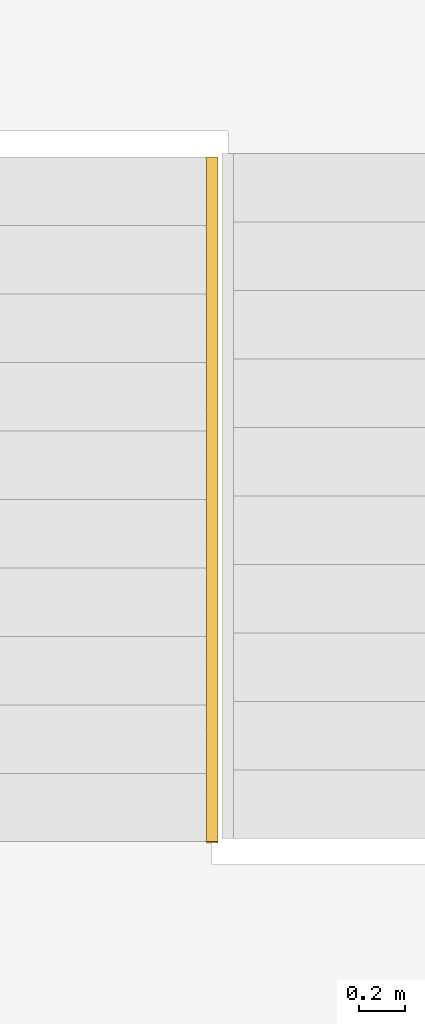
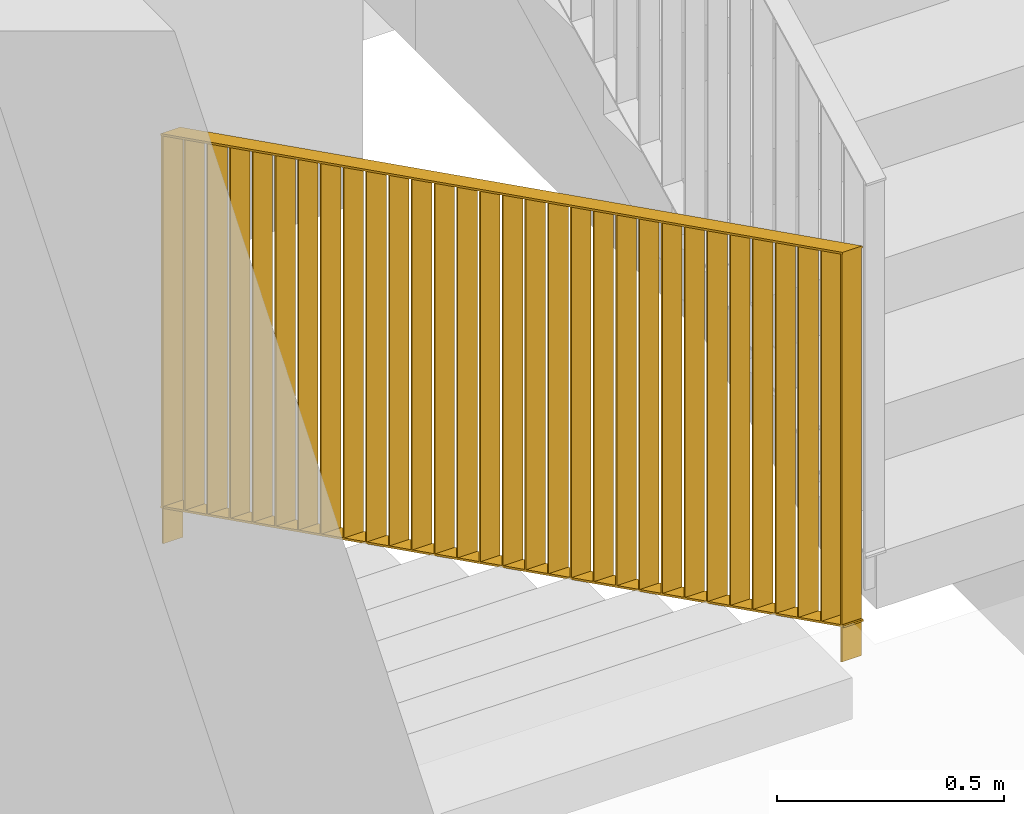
# One storey, part 20 of 48: 1 railing, 1 element without a shape of its own.
"""IFC2X3 building model written with IfcOpenShell, lengths in millimetres."""

from ifc_helpers import new_model, entity, si_unit, converted_unit, derived_unit, direction, frame, origin, place, context, subcontext, project, spatial, faceted_brep, material, element, aggregate, save


model = new_model("IFC2X3")

# Units and contexts
model_context = context("Model", 3, precision=0.01, world=origin(), true_north=direction((6.12303176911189e-17, 1.0)))
body_context = subcontext(model_context, "Body", "Model", "MODEL_VIEW")
ifc_project = project(units=[si_unit("LENGTHUNIT", "METRE", prefix="MILLI"), si_unit("AREAUNIT", "SQUARE_METRE"), si_unit("VOLUMEUNIT", "CUBIC_METRE"), converted_unit("PLANEANGLEUNIT", "DEGREE", entity("IfcRatioMeasure", 0.0174532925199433), si_unit("PLANEANGLEUNIT", "RADIAN"), dimensions=[0, 0, 0, 0, 0, 0, 0]), si_unit("MASSUNIT", "GRAM", prefix="KILO"), derived_unit("MASSDENSITYUNIT", [(si_unit("MASSUNIT", "GRAM", prefix="KILO"), 1), (si_unit("LENGTHUNIT", "METRE"), -3)]), si_unit("TIMEUNIT", "SECOND"), si_unit("FREQUENCYUNIT", "HERTZ"), si_unit("THERMODYNAMICTEMPERATUREUNIT", "DEGREE_CELSIUS"), derived_unit("THERMALTRANSMITTANCEUNIT", [(si_unit("MASSUNIT", "GRAM", prefix="KILO"), 1), (si_unit("THERMODYNAMICTEMPERATUREUNIT", "KELVIN"), -1), (si_unit("TIMEUNIT", "SECOND"), -3)]), derived_unit("VOLUMETRICFLOWRATEUNIT", [(si_unit("LENGTHUNIT", "METRE"), 3), (si_unit("TIMEUNIT", "SECOND"), -1)]), si_unit("ELECTRICCURRENTUNIT", "AMPERE"), si_unit("ELECTRICVOLTAGEUNIT", "VOLT"), si_unit("POWERUNIT", "WATT"), si_unit("FORCEUNIT", "NEWTON", prefix="KILO"), si_unit("ILLUMINANCEUNIT", "LUX"), si_unit("LUMINOUSFLUXUNIT", "LUMEN"), si_unit("LUMINOUSINTENSITYUNIT", "CANDELA"), derived_unit("USERDEFINED", [(si_unit("MASSUNIT", "GRAM", prefix="KILO"), -1), (si_unit("LENGTHUNIT", "METRE"), -2), (si_unit("TIMEUNIT", "SECOND"), 3), (si_unit("LUMINOUSFLUXUNIT", "LUMEN"), 1)]), derived_unit("LINEARVELOCITYUNIT", [(si_unit("LENGTHUNIT", "METRE"), 1), (si_unit("TIMEUNIT", "SECOND"), -1)]), si_unit("PRESSUREUNIT", "PASCAL"), derived_unit("USERDEFINED", [(si_unit("LENGTHUNIT", "METRE"), -2), (si_unit("MASSUNIT", "GRAM", prefix="KILO"), 1), (si_unit("TIMEUNIT", "SECOND"), -2)]), derived_unit("LINEARFORCEUNIT", [(si_unit("MASSUNIT", "GRAM", prefix="KILO"), 1), (si_unit("LENGTHUNIT", "METRE"), 1), (si_unit("TIMEUNIT", "SECOND"), -2), (si_unit("LENGTHUNIT", "METRE"), -1)]), derived_unit("PLANARFORCEUNIT", [(si_unit("MASSUNIT", "GRAM", prefix="KILO"), 1), (si_unit("LENGTHUNIT", "METRE"), 1), (si_unit("TIMEUNIT", "SECOND"), -2), (si_unit("LENGTHUNIT", "METRE"), -2)])], contexts=[model_context])

# Site, building, storey
site_placement = place(None, origin())
site = spatial("IfcSite", under=ifc_project, at=site_placement, Name="Default", CompositionType="ELEMENT")
building_placement = place(site_placement, origin())
building = spatial("IfcBuilding", under=site, at=building_placement, Name="SMA ARH", CompositionType="ELEMENT")
storey_placement = place(building_placement, frame((0.0, 0.0, 6600.0)))
storey = spatial("IfcBuildingStorey", under=building, at=storey_placement, Name="3 Korrus", CompositionType="ELEMENT", Elevation=6599.99999999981)

# Stair, railing
stair_placement = place(storey_placement, origin())
stair = element("IfcStair", 1, at=stair_placement, inside=storey, Name="Cast-In-Place Stair:Stair", ObjectType="Cast-In-Place Stair:Cast-In-Place Stair", ShapeType="STRAIGHT_RUN_STAIR")
ifc_material = material(Name="Metal - Stainless Steel,Polished")
railing_placement = place(stair_placement, frame((32185.0, 1650.0, 3.74999999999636)))
railing = element("IfcRailing", 2, at=railing_placement, material=ifc_material, Name="Railing:1000mm_sisearh railing offsetiga", ObjectType="Railing:1000mm_sisearh railing offsetiga", PredefinedType="NOTDEFINED", context=body_context, shape_type="Brep", body=[
    faceted_brep([(0.0, 3002.50000000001, 97.5000000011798), (0.0, 2997.50000000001, 100.0), (0.0, 2997.50000000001, 1094.40983005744), (0.0, 3002.50000000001, 1091.90983005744), (50.0, 3002.50000000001, 97.5000000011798), (50.0, 3002.50000000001, 1091.90983005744), (50.0, 2997.50000000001, 1094.40983005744), (50.0, 2997.50000000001, 100.0)], [[[0, 1, 2, 3]], [[4, 5, 6, 7]], [[1, 0, 4, 7]], [[2, 1, 7, 6]], [[3, 2, 6, 5]], [[0, 3, 5, 4]]]),
    faceted_brep([(0.0, 2902.50000000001, 147.500000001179), (0.0, 2897.50000000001, 150.0), (0.0, 2897.50000000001, 1144.40983005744), (0.0, 2902.50000000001, 1141.90983005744), (50.0, 2902.50000000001, 147.500000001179), (50.0, 2902.50000000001, 1141.90983005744), (50.0, 2897.50000000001, 1144.40983005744), (50.0, 2897.50000000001, 150.0)], [[[0, 1, 2, 3]], [[4, 5, 6, 7]], [[1, 0, 4, 7]], [[2, 1, 7, 6]], [[3, 2, 6, 5]], [[0, 3, 5, 4]]]),
    faceted_brep([(0.0, 2802.50000000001, 197.50000000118), (0.0, 2797.50000000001, 200.0), (0.0, 2797.50000000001, 1194.40983005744), (0.0, 2802.50000000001, 1191.90983005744), (50.0, 2802.50000000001, 197.50000000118), (50.0, 2802.50000000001, 1191.90983005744), (50.0, 2797.50000000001, 1194.40983005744), (50.0, 2797.50000000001, 200.0)], [[[0, 1, 2, 3]], [[4, 5, 6, 7]], [[1, 0, 4, 7]], [[2, 1, 7, 6]], [[3, 2, 6, 5]], [[0, 3, 5, 4]]]),
    faceted_brep([(0.0, 2702.50000000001, 247.500000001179), (0.0, 2697.50000000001, 250.0), (0.0, 2697.50000000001, 1244.40983005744), (0.0, 2702.50000000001, 1241.90983005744), (50.0, 2702.50000000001, 247.500000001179), (50.0, 2702.50000000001, 1241.90983005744), (50.0, 2697.50000000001, 1244.40983005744), (50.0, 2697.50000000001, 250.0)], [[[0, 1, 2, 3]], [[4, 5, 6, 7]], [[1, 0, 4, 7]], [[2, 1, 7, 6]], [[3, 2, 6, 5]], [[0, 3, 5, 4]]]),
    faceted_brep([(0.0, 2602.50000000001, 297.50000000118), (0.0, 2597.50000000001, 300.0), (0.0, 2597.50000000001, 1294.40983005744), (0.0, 2602.50000000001, 1291.90983005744), (50.0, 2602.50000000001, 297.50000000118), (50.0, 2602.50000000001, 1291.90983005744), (50.0, 2597.50000000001, 1294.40983005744), (50.0, 2597.50000000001, 300.0)], [[[0, 1, 2, 3]], [[4, 5, 6, 7]], [[1, 0, 4, 7]], [[2, 1, 7, 6]], [[3, 2, 6, 5]], [[0, 3, 5, 4]]]),
    faceted_brep([(0.0, 2502.50000000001, 347.500000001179), (0.0, 2497.50000000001, 350.0), (0.0, 2497.50000000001, 1344.40983005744), (0.0, 2502.50000000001, 1341.90983005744), (50.0, 2502.50000000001, 347.500000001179), (50.0, 2502.50000000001, 1341.90983005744), (50.0, 2497.50000000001, 1344.40983005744), (50.0, 2497.50000000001, 350.0)], [[[0, 1, 2, 3]], [[4, 5, 6, 7]], [[1, 0, 4, 7]], [[2, 1, 7, 6]], [[3, 2, 6, 5]], [[0, 3, 5, 4]]]),
    faceted_brep([(0.0, 2402.50000000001, 397.50000000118), (0.0, 2397.50000000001, 400.0), (0.0, 2397.50000000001, 1394.40983005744), (0.0, 2402.50000000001, 1391.90983005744), (50.0, 2402.50000000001, 397.50000000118), (50.0, 2402.50000000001, 1391.90983005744), (50.0, 2397.50000000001, 1394.40983005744), (50.0, 2397.50000000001, 400.0)], [[[0, 1, 2, 3]], [[4, 5, 6, 7]], [[1, 0, 4, 7]], [[2, 1, 7, 6]], [[3, 2, 6, 5]], [[0, 3, 5, 4]]]),
    faceted_brep([(0.0, 2302.50000000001, 447.500000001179), (0.0, 2297.50000000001, 450.0), (0.0, 2297.50000000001, 1444.40983005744), (0.0, 2302.50000000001, 1441.90983005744), (50.0, 2302.50000000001, 447.500000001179), (50.0, 2302.50000000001, 1441.90983005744), (50.0, 2297.50000000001, 1444.40983005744), (50.0, 2297.50000000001, 450.0)], [[[0, 1, 2, 3]], [[4, 5, 6, 7]], [[1, 0, 4, 7]], [[2, 1, 7, 6]], [[3, 2, 6, 5]], [[0, 3, 5, 4]]]),
    faceted_brep([(0.0, 2202.50000000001, 497.50000000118), (0.0, 2197.50000000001, 500.0), (0.0, 2197.50000000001, 1494.40983005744), (0.0, 2202.50000000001, 1491.90983005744), (50.0, 2202.50000000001, 497.50000000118), (50.0, 2202.50000000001, 1491.90983005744), (50.0, 2197.50000000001, 1494.40983005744), (50.0, 2197.50000000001, 500.0)], [[[0, 1, 2, 3]], [[4, 5, 6, 7]], [[1, 0, 4, 7]], [[2, 1, 7, 6]], [[3, 2, 6, 5]], [[0, 3, 5, 4]]]),
    faceted_brep([(0.0, 2102.50000000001, 547.500000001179), (0.0, 2097.50000000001, 550.0), (0.0, 2097.50000000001, 1544.40983005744), (0.0, 2102.50000000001, 1541.90983005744), (50.0, 2102.50000000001, 547.500000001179), (50.0, 2102.50000000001, 1541.90983005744), (50.0, 2097.50000000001, 1544.40983005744), (50.0, 2097.50000000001, 550.0)], [[[0, 1, 2, 3]], [[4, 5, 6, 7]], [[1, 0, 4, 7]], [[2, 1, 7, 6]], [[3, 2, 6, 5]], [[0, 3, 5, 4]]]),
    faceted_brep([(0.0, 2002.50000000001, 597.50000000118), (0.0, 1997.50000000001, 600.0), (0.0, 1997.50000000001, 1594.40983005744), (0.0, 2002.50000000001, 1591.90983005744), (50.0, 2002.50000000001, 597.50000000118), (50.0, 2002.50000000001, 1591.90983005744), (50.0, 1997.50000000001, 1594.40983005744), (50.0, 1997.50000000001, 600.0)], [[[0, 1, 2, 3]], [[4, 5, 6, 7]], [[1, 0, 4, 7]], [[2, 1, 7, 6]], [[3, 2, 6, 5]], [[0, 3, 5, 4]]]),
    faceted_brep([(0.0, 1902.50000000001, 647.500000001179), (0.0, 1897.50000000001, 650.0), (0.0, 1897.50000000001, 1644.40983005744), (0.0, 1902.50000000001, 1641.90983005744), (50.0, 1902.50000000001, 647.500000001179), (50.0, 1902.50000000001, 1641.90983005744), (50.0, 1897.50000000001, 1644.40983005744), (50.0, 1897.50000000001, 650.0)], [[[0, 1, 2, 3]], [[4, 5, 6, 7]], [[1, 0, 4, 7]], [[2, 1, 7, 6]], [[3, 2, 6, 5]], [[0, 3, 5, 4]]]),
    faceted_brep([(0.0, 1802.50000000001, 697.50000000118), (0.0, 1797.50000000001, 700.0), (0.0, 1797.50000000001, 1694.40983005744), (0.0, 1802.50000000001, 1691.90983005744), (50.0, 1802.50000000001, 697.50000000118), (50.0, 1802.50000000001, 1691.90983005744), (50.0, 1797.50000000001, 1694.40983005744), (50.0, 1797.50000000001, 700.0)], [[[0, 1, 2, 3]], [[4, 5, 6, 7]], [[1, 0, 4, 7]], [[2, 1, 7, 6]], [[3, 2, 6, 5]], [[0, 3, 5, 4]]]),
    faceted_brep([(0.0, 1702.50000000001, 747.500000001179), (0.0, 1697.50000000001, 750.0), (0.0, 1697.50000000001, 1744.40983005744), (0.0, 1702.50000000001, 1741.90983005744), (50.0, 1702.50000000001, 747.500000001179), (50.0, 1702.50000000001, 1741.90983005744), (50.0, 1697.50000000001, 1744.40983005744), (50.0, 1697.50000000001, 750.0)], [[[0, 1, 2, 3]], [[4, 5, 6, 7]], [[1, 0, 4, 7]], [[2, 1, 7, 6]], [[3, 2, 6, 5]], [[0, 3, 5, 4]]]),
    faceted_brep([(0.0, 1602.50000000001, 797.50000000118), (0.0, 1597.50000000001, 800.0), (0.0, 1597.50000000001, 1794.40983005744), (0.0, 1602.50000000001, 1791.90983005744), (50.0, 1602.50000000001, 797.50000000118), (50.0, 1602.50000000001, 1791.90983005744), (50.0, 1597.50000000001, 1794.40983005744), (50.0, 1597.50000000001, 800.0)], [[[0, 1, 2, 3]], [[4, 5, 6, 7]], [[1, 0, 4, 7]], [[2, 1, 7, 6]], [[3, 2, 6, 5]], [[0, 3, 5, 4]]]),
    faceted_brep([(0.0, 1502.50000000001, 847.500000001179), (0.0, 1497.50000000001, 850.0), (0.0, 1497.50000000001, 1844.40983005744), (0.0, 1502.50000000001, 1841.90983005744), (50.0, 1502.50000000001, 847.500000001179), (50.0, 1502.50000000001, 1841.90983005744), (50.0, 1497.50000000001, 1844.40983005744), (50.0, 1497.50000000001, 850.0)], [[[0, 1, 2, 3]], [[4, 5, 6, 7]], [[1, 0, 4, 7]], [[2, 1, 7, 6]], [[3, 2, 6, 5]], [[0, 3, 5, 4]]]),
    faceted_brep([(0.0, 1402.50000000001, 897.500000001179), (0.0, 1397.50000000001, 900.0), (0.0, 1397.50000000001, 1894.40983005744), (0.0, 1402.50000000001, 1891.90983005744), (50.0, 1402.50000000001, 897.500000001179), (50.0, 1402.50000000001, 1891.90983005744), (50.0, 1397.50000000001, 1894.40983005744), (50.0, 1397.50000000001, 900.0)], [[[0, 1, 2, 3]], [[4, 5, 6, 7]], [[1, 0, 4, 7]], [[2, 1, 7, 6]], [[3, 2, 6, 5]], [[0, 3, 5, 4]]]),
    faceted_brep([(0.0, 1302.50000000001, 947.500000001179), (0.0, 1297.50000000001, 950.0), (0.0, 1297.50000000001, 1944.40983005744), (0.0, 1302.50000000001, 1941.90983005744), (50.0, 1302.50000000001, 947.500000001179), (50.0, 1302.50000000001, 1941.90983005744), (50.0, 1297.50000000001, 1944.40983005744), (50.0, 1297.50000000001, 950.0)], [[[0, 1, 2, 3]], [[4, 5, 6, 7]], [[1, 0, 4, 7]], [[2, 1, 7, 6]], [[3, 2, 6, 5]], [[0, 3, 5, 4]]]),
    faceted_brep([(0.0, 1202.50000000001, 997.500000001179), (0.0, 1197.50000000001, 1000.0), (0.0, 1197.50000000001, 1994.40983005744), (0.0, 1202.50000000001, 1991.90983005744), (50.0, 1202.50000000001, 997.500000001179), (50.0, 1202.50000000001, 1991.90983005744), (50.0, 1197.50000000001, 1994.40983005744), (50.0, 1197.50000000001, 1000.0)], [[[0, 1, 2, 3]], [[4, 5, 6, 7]], [[1, 0, 4, 7]], [[2, 1, 7, 6]], [[3, 2, 6, 5]], [[0, 3, 5, 4]]]),
    faceted_brep([(0.0, 1102.50000000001, 1047.50000000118), (0.0, 1097.50000000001, 1050.0), (0.0, 1097.50000000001, 2044.40983005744), (0.0, 1102.50000000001, 2041.90983005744), (50.0, 1102.50000000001, 1047.50000000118), (50.0, 1102.50000000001, 2041.90983005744), (50.0, 1097.50000000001, 2044.40983005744), (50.0, 1097.50000000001, 1050.0)], [[[0, 1, 2, 3]], [[4, 5, 6, 7]], [[1, 0, 4, 7]], [[2, 1, 7, 6]], [[3, 2, 6, 5]], [[0, 3, 5, 4]]]),
    faceted_brep([(0.0, 1002.50000000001, 1097.50000000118), (0.0, 997.500000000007, 1100.0), (0.0, 997.500000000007, 2094.40983005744), (0.0, 1002.50000000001, 2091.90983005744), (50.0, 1002.50000000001, 1097.50000000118), (50.0, 1002.50000000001, 2091.90983005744), (50.0, 997.500000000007, 2094.40983005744), (50.0, 997.500000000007, 1100.0)], [[[0, 1, 2, 3]], [[4, 5, 6, 7]], [[1, 0, 4, 7]], [[2, 1, 7, 6]], [[3, 2, 6, 5]], [[0, 3, 5, 4]]]),
    faceted_brep([(0.0, 902.500000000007, 1147.50000000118), (0.0, 897.500000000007, 1150.0), (0.0, 897.500000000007, 2144.40983005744), (0.0, 902.500000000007, 2141.90983005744), (50.0, 902.500000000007, 1147.50000000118), (50.0, 902.500000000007, 2141.90983005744), (50.0, 897.500000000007, 2144.40983005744), (50.0, 897.500000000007, 1150.0)], [[[0, 1, 2, 3]], [[4, 5, 6, 7]], [[1, 0, 4, 7]], [[2, 1, 7, 6]], [[3, 2, 6, 5]], [[0, 3, 5, 4]]]),
    faceted_brep([(0.0, 802.500000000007, 1197.50000000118), (0.0, 797.500000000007, 1200.0), (0.0, 797.500000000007, 2194.40983005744), (0.0, 802.500000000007, 2191.90983005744), (50.0, 802.500000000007, 1197.50000000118), (50.0, 802.500000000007, 2191.90983005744), (50.0, 797.500000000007, 2194.40983005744), (50.0, 797.500000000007, 1200.0)], [[[0, 1, 2, 3]], [[4, 5, 6, 7]], [[1, 0, 4, 7]], [[2, 1, 7, 6]], [[3, 2, 6, 5]], [[0, 3, 5, 4]]]),
    faceted_brep([(0.0, 702.500000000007, 1247.50000000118), (0.0, 697.500000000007, 1250.0), (0.0, 697.500000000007, 2244.40983005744), (0.0, 702.500000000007, 2241.90983005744), (50.0, 702.500000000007, 1247.50000000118), (50.0, 702.500000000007, 2241.90983005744), (50.0, 697.500000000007, 2244.40983005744), (50.0, 697.500000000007, 1250.0)], [[[0, 1, 2, 3]], [[4, 5, 6, 7]], [[1, 0, 4, 7]], [[2, 1, 7, 6]], [[3, 2, 6, 5]], [[0, 3, 5, 4]]]),
    faceted_brep([(0.0, 602.500000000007, 1297.50000000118), (0.0, 597.500000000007, 1300.0), (0.0, 597.500000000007, 2294.40983005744), (0.0, 602.500000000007, 2291.90983005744), (50.0, 602.500000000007, 1297.50000000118), (50.0, 602.500000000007, 2291.90983005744), (50.0, 597.500000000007, 2294.40983005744), (50.0, 597.500000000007, 1300.0)], [[[0, 1, 2, 3]], [[4, 5, 6, 7]], [[1, 0, 4, 7]], [[2, 1, 7, 6]], [[3, 2, 6, 5]], [[0, 3, 5, 4]]]),
    faceted_brep([(0.0, 502.500000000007, 1347.50000000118), (0.0, 497.500000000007, 1350.0), (0.0, 497.500000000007, 2344.40983005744), (0.0, 502.500000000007, 2341.90983005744), (50.0, 502.500000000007, 1347.50000000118), (50.0, 502.500000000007, 2341.90983005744), (50.0, 497.500000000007, 2344.40983005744), (50.0, 497.500000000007, 1350.0)], [[[0, 1, 2, 3]], [[4, 5, 6, 7]], [[1, 0, 4, 7]], [[2, 1, 7, 6]], [[3, 2, 6, 5]], [[0, 3, 5, 4]]]),
    faceted_brep([(0.0, 402.500000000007, 1397.50000000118), (0.0, 397.500000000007, 1400.0), (0.0, 397.500000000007, 2394.40983005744), (0.0, 402.500000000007, 2391.90983005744), (50.0, 402.500000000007, 1397.50000000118), (50.0, 402.500000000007, 2391.90983005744), (50.0, 397.500000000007, 2394.40983005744), (50.0, 397.500000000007, 1400.0)], [[[0, 1, 2, 3]], [[4, 5, 6, 7]], [[1, 0, 4, 7]], [[2, 1, 7, 6]], [[3, 2, 6, 5]], [[0, 3, 5, 4]]]),
    faceted_brep([(0.0, 302.500000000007, 1447.50000000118), (0.0, 297.500000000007, 1450.0), (0.0, 297.500000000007, 2444.40983005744), (0.0, 302.500000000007, 2441.90983005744), (50.0, 302.500000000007, 1447.50000000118), (50.0, 302.500000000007, 2441.90983005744), (50.0, 297.500000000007, 2444.40983005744), (50.0, 297.500000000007, 1450.0)], [[[0, 1, 2, 3]], [[4, 5, 6, 7]], [[1, 0, 4, 7]], [[2, 1, 7, 6]], [[3, 2, 6, 5]], [[0, 3, 5, 4]]]),
    faceted_brep([(0.0, 202.500000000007, 1497.50000000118), (0.0, 197.500000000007, 1500.0), (0.0, 197.500000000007, 2494.40983005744), (0.0, 202.500000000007, 2491.90983005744), (50.0, 202.500000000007, 1497.50000000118), (50.0, 202.500000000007, 2491.90983005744), (50.0, 197.500000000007, 2494.40983005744), (50.0, 197.500000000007, 1500.0)], [[[0, 1, 2, 3]], [[4, 5, 6, 7]], [[1, 0, 4, 7]], [[2, 1, 7, 6]], [[3, 2, 6, 5]], [[0, 3, 5, 4]]]),
    faceted_brep([(0.0, 102.500000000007, 1547.50000000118), (0.0, 97.5000000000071, 1550.0), (0.0, 97.5000000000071, 2544.40983005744), (0.0, 102.500000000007, 2541.90983005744), (50.0, 102.500000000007, 1547.50000000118), (50.0, 102.500000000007, 2541.90983005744), (50.0, 97.5000000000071, 2544.40983005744), (50.0, 97.5000000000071, 1550.0)], [[[0, 1, 2, 3]], [[4, 5, 6, 7]], [[1, 0, 4, 7]], [[2, 1, 7, 6]], [[3, 2, 6, 5]], [[0, 3, 5, 4]]]),
    faceted_brep([(0.0, 2997.50000000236, 0.0), (0.0, 2992.50000000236, 2.5000000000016), (0.0, 2992.50000000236, 1096.90983005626), (0.0, 2997.50000000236, 1094.40983005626), (50.0, 2997.50000000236, 0.0), (50.0, 2997.50000000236, 1094.40983005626), (50.0, 2992.50000000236, 1096.90983005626), (50.0, 2992.50000000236, 2.5000000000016)], [[[0, 1, 2, 3]], [[4, 5, 6, 7]], [[1, 0, 4, 7]], [[2, 1, 7, 6]], [[3, 2, 6, 5]], [[0, 3, 5, 4]]]),
    faceted_brep([(0.0, 12.5000000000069, 1492.50000000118), (0.0, 7.50000000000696, 1495.0), (0.0, 7.50000000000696, 2589.40983005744), (0.0, 12.5000000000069, 2586.90983005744), (50.0, 12.5000000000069, 1492.50000000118), (50.0, 12.5000000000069, 2586.90983005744), (50.0, 7.50000000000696, 2589.40983005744), (50.0, 7.50000000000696, 1495.0)], [[[0, 1, 2, 3]], [[4, 5, 6, 7]], [[1, 0, 4, 7]], [[2, 1, 7, 6]], [[3, 2, 6, 5]], [[0, 3, 5, 4]]]),
    faceted_brep([(0.440169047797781, 0.0, 1596.25), (0.440169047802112, 0.0, 1591.25), (50.4401690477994, 0.0, 1591.25), (50.4401690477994, 0.0, 1596.25), (0.440169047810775, 3005.0, 96.2500000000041), (50.4401690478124, 3005.0, 96.2500000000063), (50.4401690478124, 3005.0, 90.6598300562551), (0.440169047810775, 3005.0, 90.6598300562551), (0.440169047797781, 5.0, 1596.25), (0.440169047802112, 3.81966011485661, 1591.25), (50.4401690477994, 3.81966011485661, 1591.25), (50.4401690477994, 5.0, 1596.25)], [[[0, 1, 2, 3]], [[4, 5, 6, 7]], [[1, 0, 8, 9]], [[2, 1, 9, 10]], [[3, 2, 10, 11]], [[0, 3, 11, 8]], [[9, 8, 4, 7]], [[10, 9, 7, 6]], [[11, 10, 6, 5]], [[8, 11, 5, 4]]]),
    faceted_brep([(0.440169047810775, 3005.0, 1096.25000000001), (50.4401690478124, 3005.0, 1096.25000000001), (50.4401690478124, 3005.0, 1090.65983005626), (0.440169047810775, 3005.0, 1090.65983005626), (0.440169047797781, 5.0, 2596.25000000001), (0.440169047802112, 5.0, 2590.65983005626), (50.4401690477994, 5.0, 2590.65983005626), (50.4401690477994, 5.0, 2596.25000000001)], [[[0, 1, 2, 3]], [[4, 5, 6, 7]], [[1, 0, 4, 7]], [[2, 1, 7, 6]], [[3, 2, 6, 5]], [[0, 3, 5, 4]]]),
])
aggregate(stair, [railing])

save(model, "model.ifc")
